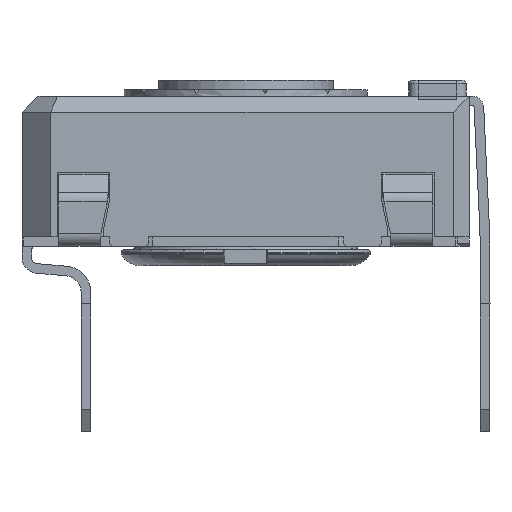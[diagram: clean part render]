
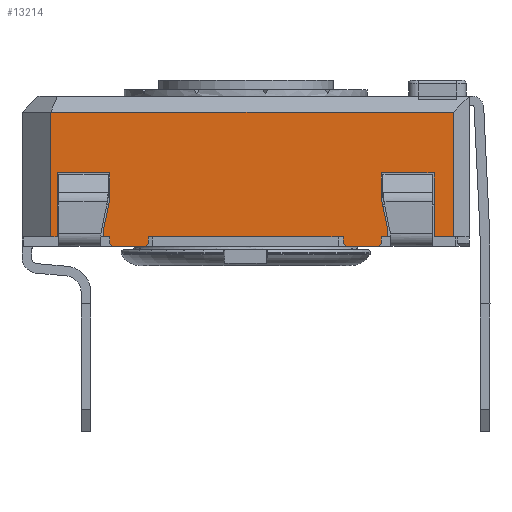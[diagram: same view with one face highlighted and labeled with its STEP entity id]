
A CAD part, left-side view. The second image highlights one B-rep face of the part: STEP entity #13214.
In plain terms, the highlighted planar face has unit normal (-1, 0, 0).
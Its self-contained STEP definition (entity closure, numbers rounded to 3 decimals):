
#454=PLANE('',#14107);
#1063=FACE_OUTER_BOUND('',#1751,.T.);
#1751=EDGE_LOOP('',(#10914,#10915,#10916,#10917,#10918,#10919,#10920,#10921,
#10922,#10923,#10924,#10925,#10926,#10927,#10928,#10929,#10930,#10931,#10932,
#10933,#10934,#10935,#10936,#10937,#10938,#10939,#10940,#10941));
#2755=LINE('',#20233,#4270);
#2761=LINE('',#20245,#4276);
#2764=LINE('',#20252,#4279);
#2769=LINE('',#20261,#4284);
#2789=LINE('',#20302,#4304);
#2803=LINE('',#20328,#4318);
#2807=LINE('',#20335,#4322);
#2822=LINE('',#20364,#4337);
#2825=LINE('',#20370,#4340);
#2830=LINE('',#20380,#4345);
#2833=LINE('',#20386,#4348);
#2836=LINE('',#20392,#4351);
#2854=LINE('',#20427,#4369);
#2866=LINE('',#20449,#4381);
#2869=LINE('',#20455,#4384);
#2906=LINE('',#20589,#4421);
#2909=LINE('',#20595,#4424);
#2935=LINE('',#20642,#4450);
#2940=LINE('',#20652,#4455);
#2942=LINE('',#20655,#4457);
#3067=LINE('',#20966,#4582);
#3069=LINE('',#20971,#4584);
#3072=LINE('',#20975,#4587);
#3074=LINE('',#20979,#4589);
#3077=LINE('',#20987,#4592);
#3078=LINE('',#20989,#4593);
#3079=LINE('',#20990,#4594);
#3080=LINE('',#20991,#4595);
#4270=VECTOR('',#16201,10.);
#4276=VECTOR('',#16209,10.);
#4279=VECTOR('',#16214,10.);
#4284=VECTOR('',#16221,10.);
#4304=VECTOR('',#16255,10.);
#4318=VECTOR('',#16269,10.);
#4322=VECTOR('',#16273,10.);
#4337=VECTOR('',#16300,10.);
#4340=VECTOR('',#16305,10.);
#4345=VECTOR('',#16312,10.);
#4348=VECTOR('',#16317,10.);
#4351=VECTOR('',#16322,10.);
#4369=VECTOR('',#16342,10.);
#4381=VECTOR('',#16356,10.);
#4384=VECTOR('',#16361,10.);
#4421=VECTOR('',#16442,10.);
#4424=VECTOR('',#16447,10.);
#4450=VECTOR('',#16475,10.);
#4455=VECTOR('',#16482,10.);
#4457=VECTOR('',#16486,10.);
#4582=VECTOR('',#16777,10.);
#4584=VECTOR('',#16781,10.);
#4587=VECTOR('',#16786,10.);
#4589=VECTOR('',#16792,10.);
#4592=VECTOR('',#16803,10.);
#4593=VECTOR('',#16804,10.);
#4594=VECTOR('',#16805,10.);
#4595=VECTOR('',#16806,10.);
#6030=VERTEX_POINT('',#20230);
#6031=VERTEX_POINT('',#20232);
#6035=VERTEX_POINT('',#20242);
#6037=VERTEX_POINT('',#20248);
#6039=VERTEX_POINT('',#20251);
#6042=VERTEX_POINT('',#20259);
#6067=VERTEX_POINT('',#20325);
#6068=VERTEX_POINT('',#20327);
#6070=VERTEX_POINT('',#20332);
#6071=VERTEX_POINT('',#20334);
#6078=VERTEX_POINT('',#20361);
#6080=VERTEX_POINT('',#20367);
#6084=VERTEX_POINT('',#20377);
#6086=VERTEX_POINT('',#20383);
#6089=VERTEX_POINT('',#20390);
#6105=VERTEX_POINT('',#20425);
#6114=VERTEX_POINT('',#20447);
#6116=VERTEX_POINT('',#20453);
#6143=VERTEX_POINT('',#20587);
#6144=VERTEX_POINT('',#20592);
#6164=VERTEX_POINT('',#20639);
#6168=VERTEX_POINT('',#20649);
#6242=VERTEX_POINT('',#20963);
#6243=VERTEX_POINT('',#20965);
#6244=VERTEX_POINT('',#20969);
#6245=VERTEX_POINT('',#20970);
#6246=VERTEX_POINT('',#20986);
#6247=VERTEX_POINT('',#20988);
#7571=EDGE_CURVE('',#6031,#6030,#2755,.T.);
#7577=EDGE_CURVE('',#6030,#6035,#2761,.T.);
#7580=EDGE_CURVE('',#6039,#6037,#2764,.T.);
#7585=EDGE_CURVE('',#6042,#6037,#2769,.T.);
#7605=EDGE_CURVE('',#6035,#6039,#2789,.T.);
#7619=EDGE_CURVE('',#6068,#6067,#2803,.T.);
#7623=EDGE_CURVE('',#6071,#6070,#2807,.T.);
#7639=EDGE_CURVE('',#6067,#6078,#2822,.T.);
#7642=EDGE_CURVE('',#6078,#6080,#2825,.T.);
#7647=EDGE_CURVE('',#6080,#6084,#2830,.T.);
#7650=EDGE_CURVE('',#6084,#6086,#2833,.T.);
#7653=EDGE_CURVE('',#6086,#6089,#2836,.T.);
#7671=EDGE_CURVE('',#6089,#6105,#2854,.T.);
#7683=EDGE_CURVE('',#6114,#6105,#2866,.T.);
#7686=EDGE_CURVE('',#6116,#6114,#2869,.T.);
#7735=EDGE_CURVE('',#6143,#6116,#2906,.T.);
#7738=EDGE_CURVE('',#6143,#6144,#2909,.T.);
#7764=EDGE_CURVE('',#6144,#6164,#2935,.T.);
#7769=EDGE_CURVE('',#6164,#6168,#2940,.T.);
#7771=EDGE_CURVE('',#6168,#6031,#2942,.T.);
#7912=EDGE_CURVE('',#6242,#6243,#3067,.T.);
#7914=EDGE_CURVE('',#6244,#6245,#3069,.T.);
#7917=EDGE_CURVE('',#6068,#6242,#3072,.T.);
#7919=EDGE_CURVE('',#6070,#6245,#3074,.T.);
#7922=EDGE_CURVE('',#6042,#6246,#3077,.T.);
#7923=EDGE_CURVE('',#6247,#6246,#3078,.T.);
#7924=EDGE_CURVE('',#6071,#6247,#3079,.T.);
#7925=EDGE_CURVE('',#6244,#6243,#3080,.T.);
#10914=ORIENTED_EDGE('',*,*,#7577,.T.);
#10915=ORIENTED_EDGE('',*,*,#7605,.T.);
#10916=ORIENTED_EDGE('',*,*,#7580,.T.);
#10917=ORIENTED_EDGE('',*,*,#7585,.F.);
#10918=ORIENTED_EDGE('',*,*,#7922,.T.);
#10919=ORIENTED_EDGE('',*,*,#7923,.F.);
#10920=ORIENTED_EDGE('',*,*,#7924,.F.);
#10921=ORIENTED_EDGE('',*,*,#7623,.T.);
#10922=ORIENTED_EDGE('',*,*,#7919,.T.);
#10923=ORIENTED_EDGE('',*,*,#7914,.F.);
#10924=ORIENTED_EDGE('',*,*,#7925,.T.);
#10925=ORIENTED_EDGE('',*,*,#7912,.F.);
#10926=ORIENTED_EDGE('',*,*,#7917,.F.);
#10927=ORIENTED_EDGE('',*,*,#7619,.T.);
#10928=ORIENTED_EDGE('',*,*,#7639,.T.);
#10929=ORIENTED_EDGE('',*,*,#7642,.T.);
#10930=ORIENTED_EDGE('',*,*,#7647,.T.);
#10931=ORIENTED_EDGE('',*,*,#7650,.T.);
#10932=ORIENTED_EDGE('',*,*,#7653,.T.);
#10933=ORIENTED_EDGE('',*,*,#7671,.T.);
#10934=ORIENTED_EDGE('',*,*,#7683,.F.);
#10935=ORIENTED_EDGE('',*,*,#7686,.F.);
#10936=ORIENTED_EDGE('',*,*,#7735,.F.);
#10937=ORIENTED_EDGE('',*,*,#7738,.T.);
#10938=ORIENTED_EDGE('',*,*,#7764,.T.);
#10939=ORIENTED_EDGE('',*,*,#7769,.T.);
#10940=ORIENTED_EDGE('',*,*,#7771,.T.);
#10941=ORIENTED_EDGE('',*,*,#7571,.T.);
#13214=ADVANCED_FACE('',(#1063),#454,.T.);
#14107=AXIS2_PLACEMENT_3D('',#20985,#16801,#16802);
#16201=DIRECTION('',(0.,0.208,-0.978));
#16209=DIRECTION('',(0.,0.,-1.));
#16214=DIRECTION('',(0.,0.,-1.));
#16221=DIRECTION('',(0.,0.707,0.707));
#16255=DIRECTION('',(0.,-1.,0.));
#16269=DIRECTION('',(0.,-1.,0.));
#16273=DIRECTION('',(0.,-1.,0.));
#16300=DIRECTION('',(0.,0.,1.));
#16305=DIRECTION('',(0.,0.208,0.978));
#16312=DIRECTION('',(0.,0.,1.));
#16317=DIRECTION('',(0.,-1.,0.));
#16322=DIRECTION('',(0.,0.,-1.));
#16342=DIRECTION('',(0.,-1.,0.));
#16356=DIRECTION('',(0.,0.,-1.));
#16361=DIRECTION('',(0.,-1.,0.));
#16442=DIRECTION('',(0.,0.,1.));
#16447=DIRECTION('',(0.,-1.,0.));
#16475=DIRECTION('',(0.,0.,1.));
#16482=DIRECTION('',(0.,-1.,0.));
#16486=DIRECTION('',(0.,0.,-1.));
#16777=DIRECTION('',(0.,0.707,-0.707));
#16781=DIRECTION('',(0.,0.707,0.707));
#16786=DIRECTION('',(0.,0.,-1.));
#16792=DIRECTION('',(0.,0.,-1.));
#16801=DIRECTION('center_axis',(-1.,0.,0.));
#16802=DIRECTION('ref_axis',(0.,0.,1.));
#16803=DIRECTION('',(0.,-1.,0.));
#16804=DIRECTION('',(0.,0.707,-0.707));
#16805=DIRECTION('',(0.,0.,-1.));
#16806=DIRECTION('',(0.,-1.,0.));
#20230=CARTESIAN_POINT('',(-14.467,1.552,0.235));
#20232=CARTESIAN_POINT('',(-14.467,1.352,1.176));
#20233=CARTESIAN_POINT('',(-14.467,1.228,1.757));
#20242=CARTESIAN_POINT('',(-14.467,1.552,0.));
#20245=CARTESIAN_POINT('',(-14.467,1.552,0.));
#20248=CARTESIAN_POINT('',(-14.467,1.352,-0.2));
#20251=CARTESIAN_POINT('',(-14.467,1.352,0.));
#20252=CARTESIAN_POINT('',(-14.467,1.352,0.));
#20259=CARTESIAN_POINT('',(-14.467,1.252,-0.3));
#20261=CARTESIAN_POINT('',(-14.467,-1.436,-2.988));
#20302=CARTESIAN_POINT('',(-14.467,4.102,0.));
#20325=CARTESIAN_POINT('',(-14.467,-7.348,0.));
#20327=CARTESIAN_POINT('',(-14.467,-7.148,0.));
#20328=CARTESIAN_POINT('',(-14.467,4.102,0.));
#20332=CARTESIAN_POINT('',(-14.467,-5.948,0.));
#20334=CARTESIAN_POINT('',(-14.467,0.152,0.));
#20335=CARTESIAN_POINT('',(-14.467,4.102,0.));
#20361=CARTESIAN_POINT('',(-14.467,-7.348,0.235));
#20364=CARTESIAN_POINT('',(-14.467,-7.348,0.118));
#20367=CARTESIAN_POINT('',(-14.467,-7.148,1.176));
#20370=CARTESIAN_POINT('',(-14.467,-7.453,-0.254));
#20377=CARTESIAN_POINT('',(-14.467,-7.148,2.));
#20380=CARTESIAN_POINT('',(-14.467,-7.148,0.588));
#20383=CARTESIAN_POINT('',(-14.467,-8.798,2.));
#20386=CARTESIAN_POINT('',(-14.467,-8.523,2.));
#20390=CARTESIAN_POINT('',(-14.467,-8.798,0.));
#20392=CARTESIAN_POINT('',(-14.467,-8.798,0.));
#20425=CARTESIAN_POINT('',(-14.467,-9.398,0.));
#20427=CARTESIAN_POINT('',(-14.467,-9.595,0.));
#20447=CARTESIAN_POINT('',(-14.467,-9.398,3.9));
#20449=CARTESIAN_POINT('',(-14.467,-9.398,0.));
#20453=CARTESIAN_POINT('',(-14.467,3.202,3.9));
#20455=CARTESIAN_POINT('',(-14.467,-6.398,3.9));
#20587=CARTESIAN_POINT('',(-14.467,3.202,0.));
#20589=CARTESIAN_POINT('',(-14.467,3.202,0.));
#20592=CARTESIAN_POINT('',(-14.467,3.002,0.));
#20595=CARTESIAN_POINT('',(-14.467,-2.985,0.));
#20639=CARTESIAN_POINT('',(-14.467,3.002,2.));
#20642=CARTESIAN_POINT('',(-14.467,3.002,0.));
#20649=CARTESIAN_POINT('',(-14.467,1.352,2.));
#20652=CARTESIAN_POINT('',(-14.467,-3.448,2.));
#20655=CARTESIAN_POINT('',(-14.467,1.352,1.));
#20963=CARTESIAN_POINT('',(-14.467,-7.148,-0.2));
#20965=CARTESIAN_POINT('',(-14.467,-7.048,-0.3));
#20966=CARTESIAN_POINT('',(-14.467,-7.861,0.513));
#20969=CARTESIAN_POINT('',(-14.467,-6.048,-0.3));
#20970=CARTESIAN_POINT('',(-14.467,-5.948,-0.2));
#20971=CARTESIAN_POINT('',(-14.467,-6.911,-1.163));
#20975=CARTESIAN_POINT('',(-14.467,-7.148,0.));
#20979=CARTESIAN_POINT('',(-14.467,-5.948,0.));
#20985=CARTESIAN_POINT('Origin',(-14.467,-9.898,0.));
#20986=CARTESIAN_POINT('',(-14.467,0.252,-0.3));
#20987=CARTESIAN_POINT('',(-14.467,0.152,-0.3));
#20988=CARTESIAN_POINT('',(-14.467,0.152,-0.2));
#20989=CARTESIAN_POINT('',(-14.467,-2.386,2.338));
#20990=CARTESIAN_POINT('',(-14.467,0.152,0.));
#20991=CARTESIAN_POINT('',(-14.467,-7.148,-0.3));
